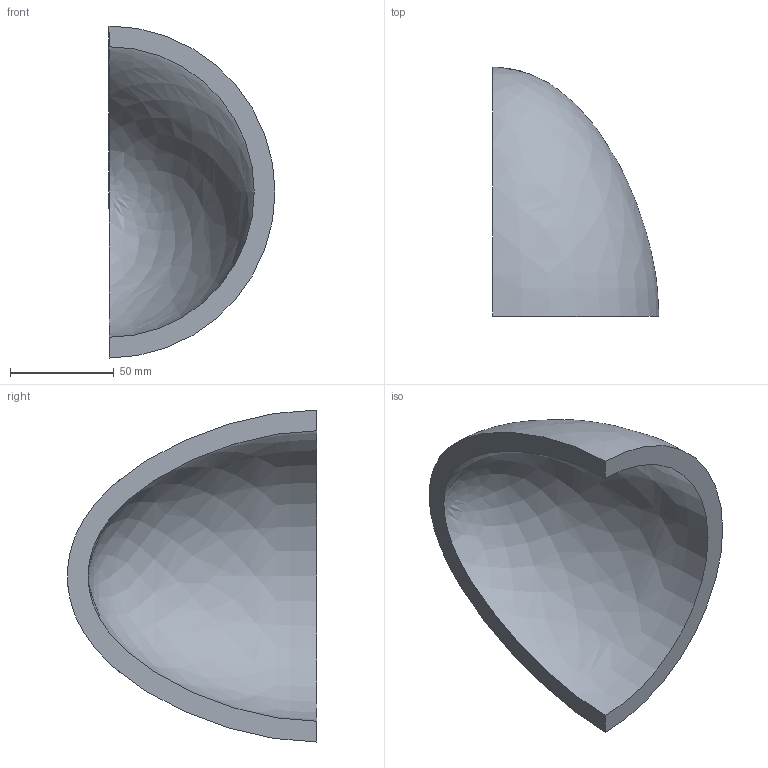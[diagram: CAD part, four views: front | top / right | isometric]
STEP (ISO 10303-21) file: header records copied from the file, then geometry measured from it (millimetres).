
FILE_DESCRIPTION(('CATIA V5 STEP Exchange'),'2;1');
FILE_NAME('C:\_Andres\UNIVERSIDAD\IQS\ASIGNATURAS\DAO\EXF\EXF-16172c\2inicio\Munar_Parra_Ej10_v20.stp','2017-03-05T22:31:12+00:00',('none'),('none'),'CATIA Version 5-6 Release 2014 SP1 HF18','CATIA V5 STEP AP203','none');
FILE_SCHEMA(('CONFIG_CONTROL_DESIGN'));
Length unit declared in the file: millimetre
Products named in the file (1): Munar_Parra_Ej10_v20
Bounding box: 80 x 120 x 160 mm (x, y, z)
Volume: 234591.1 mm3; surface area: 52363.4 mm2
Topology: 1 solids, 1 shells, 4 faces, 10 edges, 6 vertices
Faces by surface type: revolution 2, plane 2
Entity records: 242 total; most frequent: CARTESIAN_POINT 120, ORIENTED_EDGE 16, DIRECTION 10, EDGE_CURVE 8, B_SPLINE_CURVE_WITH_KNOTS 6, VERTEX_POINT 6, AXIS2_PLACEMENT_3D 5, ADVANCED_FACE 4
